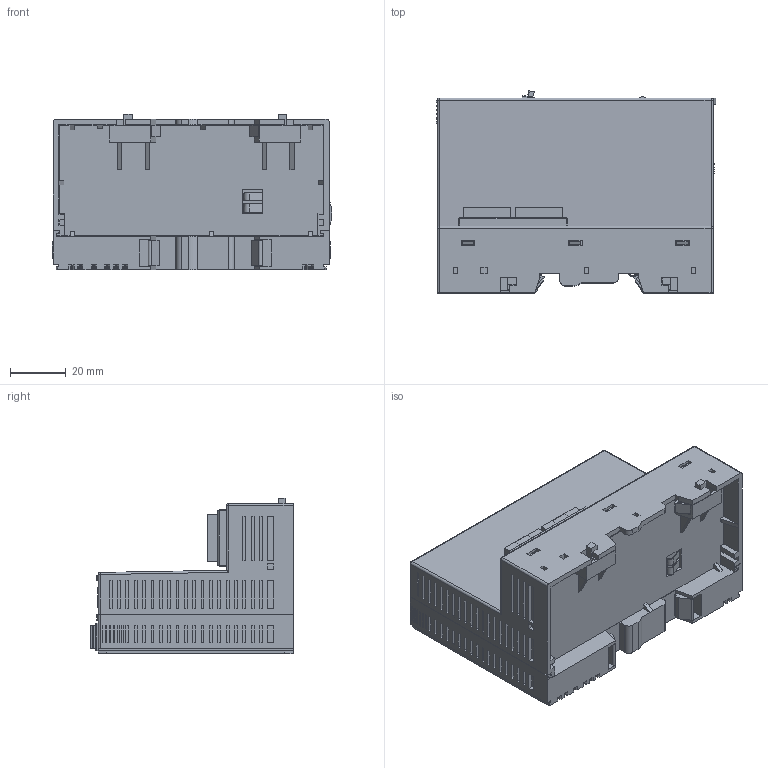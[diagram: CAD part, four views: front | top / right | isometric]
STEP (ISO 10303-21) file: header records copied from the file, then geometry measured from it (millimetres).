
FILE_DESCRIPTION((''),'2;1');
FILE_NAME('FNIO-NA-9289','2016-03-23T',('Dongwoo'),(''),'PRO/ENGINEER BY PARAMETRIC TECHNOLOGY CORPORATION, 2006170','PRO/ENGINEER BY PARAMETRIC TECHNOLOGY CORPORATION, 2006170','');
FILE_SCHEMA(('CONFIG_CONTROL_DESIGN'));
Products named in the file (1): FNIO-NA-9289
Bounding box: 100.36 x 72.6 x 55.8 mm (x, y, z)
Volume: 226629.3 mm3; surface area: 57546.9 mm2
Topology: 2 solids, 2 shells, 2423 faces, 6596 edges, 4344 vertices
Faces by surface type: plane 2258, cylinder 137, cone 16, sphere 12
Entity records: 75117 total; most frequent: CARTESIAN_POINT 13412, ORIENTED_EDGE 13192, DIRECTION 11725, EDGE_CURVE 6596, VECTOR 6295, LINE 6295, VERTEX_POINT 4344, AXIS2_PLACEMENT_3D 2715
